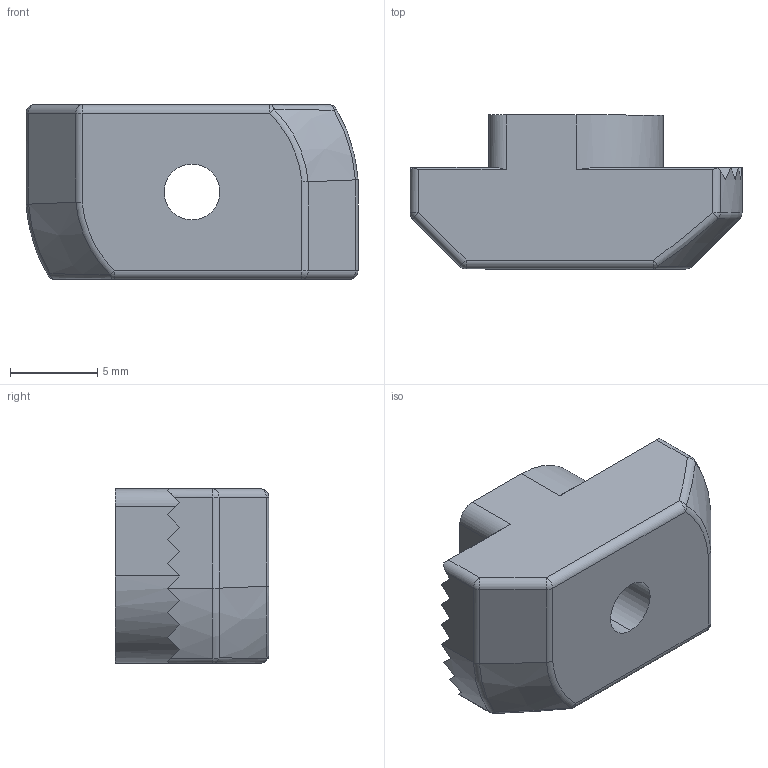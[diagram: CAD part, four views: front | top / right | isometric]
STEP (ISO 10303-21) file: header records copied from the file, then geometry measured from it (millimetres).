
FILE_DESCRIPTION (( 'STEP AP203' ), '1' );
FILE_NAME ('2018.010.001.STEP', '2024-07-30T03:43:46', ( '' ), ( '' ), 'SwSTEP 2.0', 'SolidWorks 2023', '' );
FILE_SCHEMA (( 'CONFIG_CONTROL_DESIGN' ));
Length unit declared in the file: millimetre
Products named in the file (1): 2018.010.001
Bounding box: 19 x 8.8 x 10 mm (x, y, z)
Volume: 1144 mm3; surface area: 844.6 mm2
Topology: 1 solids, 1 shells, 78 faces, 200 edges, 118 vertices
Faces by surface type: plane 42, cylinder 20, sphere 8, torus 4, cone 2, bspline 2
Entity records: 2391 total; most frequent: CARTESIAN_POINT 589, ORIENTED_EDGE 388, DIRECTION 336, EDGE_CURVE 194, VERTEX_POINT 118, AXIS2_PLACEMENT_3D 117, VECTOR 102, LINE 102
